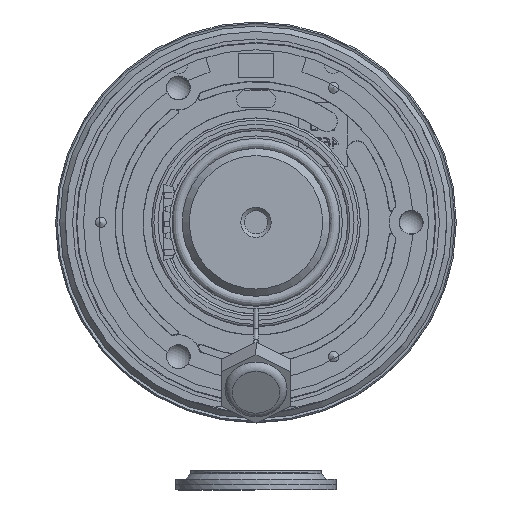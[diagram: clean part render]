
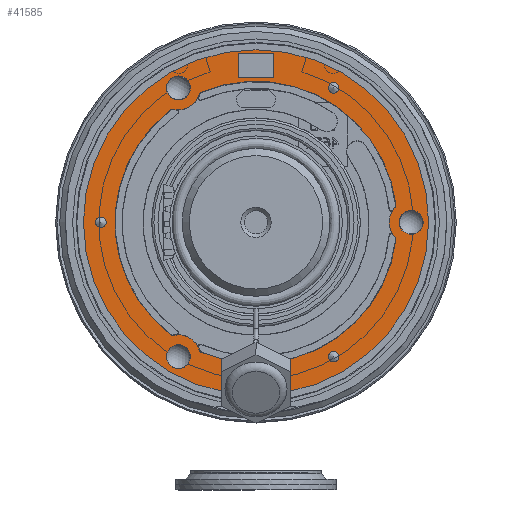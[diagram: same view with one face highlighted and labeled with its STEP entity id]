
A CAD part, left-side view. The second image highlights one B-rep face of the part: STEP entity #41585.
In plain terms, the highlighted planar face has unit normal (1, 0, 0).
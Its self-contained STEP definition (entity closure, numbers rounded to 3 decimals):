
#3945=LINE('',#70557,#7530);
#3949=LINE('',#70564,#7534);
#3952=LINE('',#70570,#7537);
#3954=LINE('',#70573,#7539);
#7530=VECTOR('',#55397,10.);
#7534=VECTOR('',#55403,10.);
#7537=VECTOR('',#55408,10.);
#7539=VECTOR('',#55412,10.);
#9493=PLANE('',#45215);
#10366=FACE_BOUND('',#15610,.T.);
#10367=FACE_BOUND('',#15611,.T.);
#10368=FACE_BOUND('',#15612,.T.);
#10369=FACE_BOUND('',#15613,.T.);
#10370=FACE_BOUND('',#15614,.T.);
#10371=FACE_BOUND('',#15615,.T.);
#10372=FACE_BOUND('',#15616,.T.);
#10373=FACE_BOUND('',#15617,.T.);
#12601=FACE_OUTER_BOUND('',#15609,.T.);
#15609=EDGE_LOOP('',(#36121));
#15610=EDGE_LOOP('',(#36122));
#15611=EDGE_LOOP('',(#36123));
#15612=EDGE_LOOP('',(#36124,#36125,#36126,#36127));
#15613=EDGE_LOOP('',(#36128));
#15614=EDGE_LOOP('',(#36129));
#15615=EDGE_LOOP('',(#36130));
#15616=EDGE_LOOP('',(#36131,#36132,#36133,#36134,#36135,#36136,#36137,#36138,
#36139,#36140,#36141,#36142));
#15617=EDGE_LOOP('',(#36143));
#17092=CIRCLE('',#45100,1.7);
#17093=CIRCLE('',#45102,3.1);
#17101=CIRCLE('',#45114,26.3);
#17102=CIRCLE('',#45121,0.75);
#17103=CIRCLE('',#45123,0.75);
#17104=CIRCLE('',#45125,0.75);
#17136=CIRCLE('',#45177,0.5);
#17141=CIRCLE('',#45183,3.1);
#17143=CIRCLE('',#45185,0.5);
#17146=CIRCLE('',#45189,20.);
#17148=CIRCLE('',#45191,0.5);
#17151=CIRCLE('',#45195,3.1);
#17153=CIRCLE('',#45197,0.5);
#17154=CIRCLE('',#45199,20.);
#17157=CIRCLE('',#45202,0.5);
#17159=CIRCLE('',#45205,20.);
#17161=CIRCLE('',#45207,0.5);
#17163=CIRCLE('',#45210,1.7);
#17165=CIRCLE('',#45213,1.7);
#20576=VERTEX_POINT('',#70515);
#20577=VERTEX_POINT('',#70518);
#20579=VERTEX_POINT('',#70524);
#20587=VERTEX_POINT('',#70548);
#20590=VERTEX_POINT('',#70554);
#20591=VERTEX_POINT('',#70556);
#20593=VERTEX_POINT('',#70562);
#20595=VERTEX_POINT('',#70568);
#20596=VERTEX_POINT('',#70576);
#20597=VERTEX_POINT('',#70579);
#20598=VERTEX_POINT('',#70582);
#20633=VERTEX_POINT('',#70857);
#20634=VERTEX_POINT('',#70859);
#20636=VERTEX_POINT('',#70864);
#20638=VERTEX_POINT('',#70887);
#20640=VERTEX_POINT('',#70892);
#20642=VERTEX_POINT('',#70917);
#20644=VERTEX_POINT('',#70925);
#20646=VERTEX_POINT('',#70951);
#20647=VERTEX_POINT('',#70958);
#20650=VERTEX_POINT('',#70986);
#20652=VERTEX_POINT('',#71014);
#20654=VERTEX_POINT('',#71019);
#25765=EDGE_CURVE('',#20576,#20576,#17092,.T.);
#25767=EDGE_CURVE('',#20577,#20579,#17093,.T.);
#25776=EDGE_CURVE('',#20587,#20587,#17101,.T.);
#25779=EDGE_CURVE('',#20591,#20590,#3945,.T.);
#25783=EDGE_CURVE('',#20590,#20593,#3949,.T.);
#25786=EDGE_CURVE('',#20593,#20595,#3952,.T.);
#25788=EDGE_CURVE('',#20595,#20591,#3954,.T.);
#25789=EDGE_CURVE('',#20596,#20596,#17102,.T.);
#25790=EDGE_CURVE('',#20597,#20597,#17103,.T.);
#25791=EDGE_CURVE('',#20598,#20598,#17104,.T.);
#25840=EDGE_CURVE('',#20633,#20634,#17136,.F.);
#25845=EDGE_CURVE('',#20634,#20636,#17141,.T.);
#25847=EDGE_CURVE('',#20636,#20638,#17143,.F.);
#25851=EDGE_CURVE('',#20638,#20640,#17146,.T.);
#25853=EDGE_CURVE('',#20640,#20642,#17148,.F.);
#25858=EDGE_CURVE('',#20642,#20644,#17151,.T.);
#25860=EDGE_CURVE('',#20644,#20646,#17153,.F.);
#25863=EDGE_CURVE('',#20647,#20633,#17154,.T.);
#25866=EDGE_CURVE('',#20579,#20647,#17157,.F.);
#25869=EDGE_CURVE('',#20646,#20650,#17159,.T.);
#25871=EDGE_CURVE('',#20650,#20577,#17161,.F.);
#25873=EDGE_CURVE('',#20652,#20652,#17163,.T.);
#25875=EDGE_CURVE('',#20654,#20654,#17165,.T.);
#36121=ORIENTED_EDGE('',*,*,#25776,.T.);
#36122=ORIENTED_EDGE('',*,*,#25875,.T.);
#36123=ORIENTED_EDGE('',*,*,#25873,.T.);
#36124=ORIENTED_EDGE('',*,*,#25779,.T.);
#36125=ORIENTED_EDGE('',*,*,#25783,.T.);
#36126=ORIENTED_EDGE('',*,*,#25786,.T.);
#36127=ORIENTED_EDGE('',*,*,#25788,.T.);
#36128=ORIENTED_EDGE('',*,*,#25789,.T.);
#36129=ORIENTED_EDGE('',*,*,#25790,.T.);
#36130=ORIENTED_EDGE('',*,*,#25791,.T.);
#36131=ORIENTED_EDGE('',*,*,#25858,.F.);
#36132=ORIENTED_EDGE('',*,*,#25853,.F.);
#36133=ORIENTED_EDGE('',*,*,#25851,.F.);
#36134=ORIENTED_EDGE('',*,*,#25847,.F.);
#36135=ORIENTED_EDGE('',*,*,#25845,.F.);
#36136=ORIENTED_EDGE('',*,*,#25840,.F.);
#36137=ORIENTED_EDGE('',*,*,#25863,.F.);
#36138=ORIENTED_EDGE('',*,*,#25866,.F.);
#36139=ORIENTED_EDGE('',*,*,#25767,.F.);
#36140=ORIENTED_EDGE('',*,*,#25871,.F.);
#36141=ORIENTED_EDGE('',*,*,#25869,.F.);
#36142=ORIENTED_EDGE('',*,*,#25860,.F.);
#36143=ORIENTED_EDGE('',*,*,#25765,.T.);
#41585=ADVANCED_FACE('',(#12601,#10366,#10367,#10368,#10369,#10370,#10371,
#10372,#10373),#9493,.T.);
#45100=AXIS2_PLACEMENT_3D('',#70516,#55363,#55364);
#45102=AXIS2_PLACEMENT_3D('',#70525,#55367,#55368);
#45114=AXIS2_PLACEMENT_3D('',#70549,#55391,#55392);
#45121=AXIS2_PLACEMENT_3D('',#70577,#55417,#55418);
#45123=AXIS2_PLACEMENT_3D('',#70580,#55421,#55422);
#45125=AXIS2_PLACEMENT_3D('',#70583,#55425,#55426);
#45177=AXIS2_PLACEMENT_3D('',#70860,#55534,#55535);
#45183=AXIS2_PLACEMENT_3D('',#70868,#55546,#55547);
#45185=AXIS2_PLACEMENT_3D('',#70888,#55550,#55551);
#45189=AXIS2_PLACEMENT_3D('',#70898,#55558,#55559);
#45191=AXIS2_PLACEMENT_3D('',#70918,#55562,#55563);
#45195=AXIS2_PLACEMENT_3D('',#70932,#55570,#55571);
#45197=AXIS2_PLACEMENT_3D('',#70952,#55574,#55575);
#45199=AXIS2_PLACEMENT_3D('',#70964,#55578,#55579);
#45202=AXIS2_PLACEMENT_3D('',#70983,#55584,#55585);
#45205=AXIS2_PLACEMENT_3D('',#70992,#55590,#55591);
#45207=AXIS2_PLACEMENT_3D('',#71010,#55594,#55595);
#45210=AXIS2_PLACEMENT_3D('',#71015,#55600,#55601);
#45213=AXIS2_PLACEMENT_3D('',#71020,#55606,#55607);
#45215=AXIS2_PLACEMENT_3D('',#71022,#55610,#55611);
#55363=DIRECTION('center_axis',(-1.,0.,0.));
#55364=DIRECTION('ref_axis',(0.,1.,0.));
#55367=DIRECTION('center_axis',(-1.,0.,0.));
#55368=DIRECTION('ref_axis',(0.,-0.5,-0.866));
#55391=DIRECTION('center_axis',(1.,0.,0.));
#55392=DIRECTION('ref_axis',(0.,-0.866,0.5));
#55397=DIRECTION('',(0.,1.,0.));
#55403=DIRECTION('',(0.,0.,-1.));
#55408=DIRECTION('',(0.,-1.,0.));
#55412=DIRECTION('',(0.,0.,1.));
#55417=DIRECTION('center_axis',(-1.,0.,0.));
#55418=DIRECTION('ref_axis',(0.,0.,
-1.));
#55421=DIRECTION('center_axis',(-1.,0.,0.));
#55422=DIRECTION('ref_axis',(0.,-0.866,0.5));
#55425=DIRECTION('center_axis',(-1.,0.,0.));
#55426=DIRECTION('ref_axis',(0.,0.866,0.5));
#55534=DIRECTION('center_axis',(-1.,0.,0.));
#55535=DIRECTION('ref_axis',(0.,-0.992,0.125));
#55546=DIRECTION('center_axis',(-1.,0.,0.));
#55547=DIRECTION('ref_axis',(0.,1.,0.));
#55550=DIRECTION('center_axis',(-1.,0.,0.));
#55551=DIRECTION('ref_axis',(0.,-0.737,0.676));
#55558=DIRECTION('center_axis',(1.,0.,0.));
#55559=DIRECTION('ref_axis',(0.,-0.866,0.5));
#55562=DIRECTION('center_axis',(-1.,0.,0.));
#55563=DIRECTION('ref_axis',(0.,0.388,-0.922));
#55570=DIRECTION('center_axis',(-1.,0.,0.));
#55571=DIRECTION('ref_axis',(0.,-0.5,0.866));
#55574=DIRECTION('center_axis',(-1.,0.,0.));
#55575=DIRECTION('ref_axis',(0.,-0.217,-0.976));
#55578=DIRECTION('center_axis',(1.,0.,0.));
#55579=DIRECTION('ref_axis',(0.,-0.866,0.5));
#55584=DIRECTION('center_axis',(-1.,0.,0.));
#55585=DIRECTION('ref_axis',(0.,0.954,0.3));
#55590=DIRECTION('center_axis',(1.,0.,0.));
#55591=DIRECTION('ref_axis',(0.,-0.866,0.5));
#55594=DIRECTION('center_axis',(-1.,0.,0.));
#55595=DIRECTION('ref_axis',(0.,0.604,0.797));
#55600=DIRECTION('center_axis',(-1.,0.,0.));
#55601=DIRECTION('ref_axis',(0.,-0.5,0.866));
#55606=DIRECTION('center_axis',(-1.,0.,0.));
#55607=DIRECTION('ref_axis',(0.,-0.5,-0.866));
#55610=DIRECTION('center_axis',(1.,0.,0.));
#55611=DIRECTION('ref_axis',(0.,-0.5,-0.866));
#70515=CARTESIAN_POINT('',(67.8,-20.3,0.));
#70516=CARTESIAN_POINT('Origin',(67.8,-22.,0.));
#70518=CARTESIAN_POINT('',(67.8,11.673,16.027));
#70524=CARTESIAN_POINT('',(67.8,8.043,18.122));
#70525=CARTESIAN_POINT('Origin',(67.8,11.,19.053));
#70548=CARTESIAN_POINT('',(67.8,-22.776,13.15));
#70549=CARTESIAN_POINT('Origin',(67.8,0.,0.));
#70554=CARTESIAN_POINT('',(67.8,2.5,24.));
#70556=CARTESIAN_POINT('',(67.8,-2.5,24.));
#70557=CARTESIAN_POINT('',(67.8,-8.774,24.));
#70562=CARTESIAN_POINT('',(67.8,2.5,20.5));
#70564=CARTESIAN_POINT('',(67.8,2.5,16.038));
#70568=CARTESIAN_POINT('',(67.8,-2.5,20.5));
#70570=CARTESIAN_POINT('',(67.8,-11.274,20.5));
#70573=CARTESIAN_POINT('',(67.8,-2.5,17.788));
#70576=CARTESIAN_POINT('',(67.8,22.,-0.75));
#70577=CARTESIAN_POINT('Origin',(67.8,22.,0.));
#70579=CARTESIAN_POINT('',(67.8,-11.65,-18.678));
#70580=CARTESIAN_POINT('Origin',(67.8,-11.,-19.053));
#70582=CARTESIAN_POINT('',(67.8,-10.35,19.428));
#70583=CARTESIAN_POINT('Origin',(67.8,-11.,19.053));
#70857=CARTESIAN_POINT('',(67.8,-19.844,2.496));
#70859=CARTESIAN_POINT('',(67.8,-19.716,2.096));
#70860=CARTESIAN_POINT('Origin',(67.8,-19.347,2.434));
#70864=CARTESIAN_POINT('',(67.8,-19.716,-2.096));
#70868=CARTESIAN_POINT('Origin',(67.8,-22.,0.));
#70887=CARTESIAN_POINT('',(67.8,-19.844,-2.496));
#70888=CARTESIAN_POINT('Origin',(67.8,-19.347,-2.434));
#70892=CARTESIAN_POINT('',(67.8,7.76,-18.433));
#70898=CARTESIAN_POINT('Origin',(67.8,0.,0.));
#70917=CARTESIAN_POINT('',(67.8,8.043,-18.122));
#70918=CARTESIAN_POINT('Origin',(67.8,7.566,-17.972));
#70925=CARTESIAN_POINT('',(67.8,11.673,-16.027));
#70932=CARTESIAN_POINT('Origin',(67.8,11.,-19.053));
#70951=CARTESIAN_POINT('',(67.8,12.084,-15.937));
#70952=CARTESIAN_POINT('Origin',(67.8,11.782,-15.539));
#70958=CARTESIAN_POINT('',(67.8,7.76,18.433));
#70964=CARTESIAN_POINT('Origin',(67.8,0.,0.));
#70983=CARTESIAN_POINT('Origin',(67.8,7.566,17.972));
#70986=CARTESIAN_POINT('',(67.8,12.084,15.937));
#70992=CARTESIAN_POINT('Origin',(67.8,0.,0.));
#71010=CARTESIAN_POINT('Origin',(67.8,11.782,15.539));
#71014=CARTESIAN_POINT('',(67.8,10.15,-17.58));
#71015=CARTESIAN_POINT('Origin',(67.8,11.,-19.053));
#71019=CARTESIAN_POINT('',(67.8,10.15,17.58));
#71020=CARTESIAN_POINT('Origin',(67.8,11.,19.053));
#71022=CARTESIAN_POINT('Origin',(67.8,-20.048,11.575));
